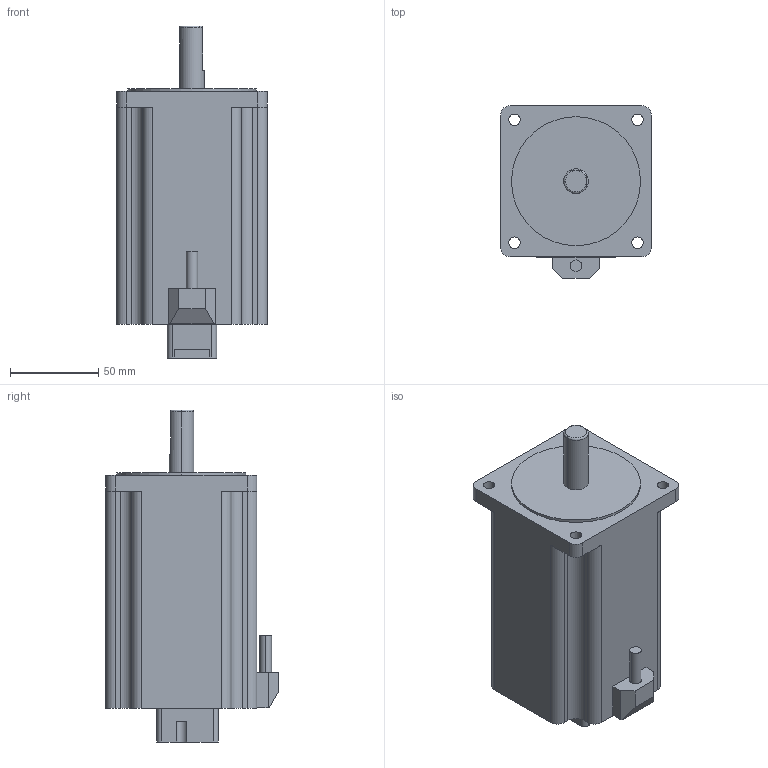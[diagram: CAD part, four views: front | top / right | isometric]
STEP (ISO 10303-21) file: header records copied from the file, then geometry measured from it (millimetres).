
FILE_DESCRIPTION (( 'STEP AP203' ), '1' );
FILE_NAME ('P-PMSA-U86D5HE-NL_3D.STEP', '2020-02-06T05:27:11', ( '' ), ( '' ), 'SwSTEP 2.0', 'SolidWorks 2018', '' );
FILE_SCHEMA (( 'CONFIG_CONTROL_DESIGN' ));
Length unit declared in the file: millimetre
Products named in the file (1): P-PMSA-U86D5HE-NL_3D
Bounding box: 85.5 x 97.5 x 188 mm (x, y, z)
Volume: 889454.4 mm3; surface area: 62134.1 mm2
Topology: 1 solids, 1 shells, 88 faces, 240 edges, 159 vertices
Faces by surface type: plane 48, cylinder 37, torus 3
Entity records: 2945 total; most frequent: CARTESIAN_POINT 546, DIRECTION 496, ORIENTED_EDGE 480, EDGE_CURVE 240, AXIS2_PLACEMENT_3D 171, VERTEX_POINT 159, LINE 154, VECTOR 154
